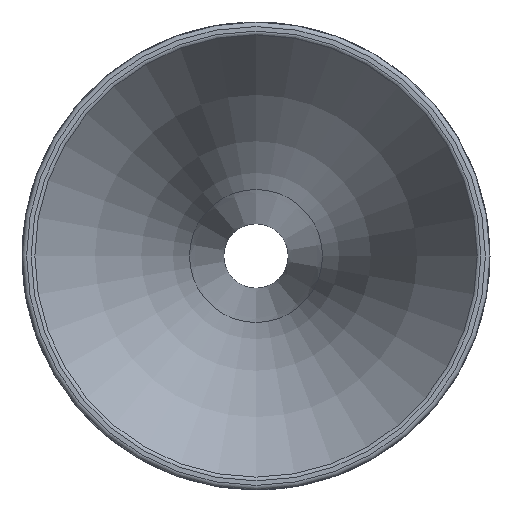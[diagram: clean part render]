
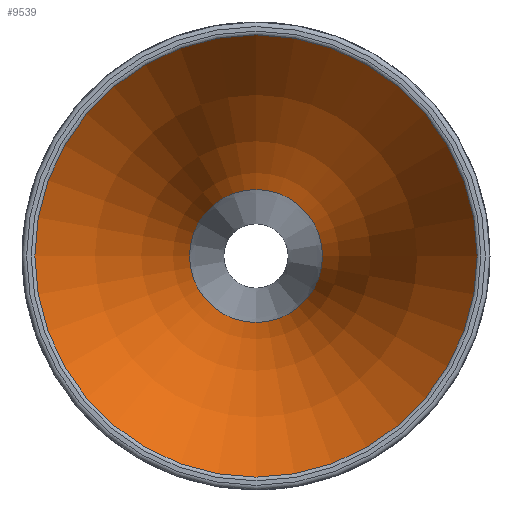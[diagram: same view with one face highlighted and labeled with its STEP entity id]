
A CAD part, front view. The second image highlights one B-rep face of the part: STEP entity #9539.
In plain terms, the highlighted toroidal (fillet/blend) face has major radius 297.261 mm and minor radius 275.091 mm.
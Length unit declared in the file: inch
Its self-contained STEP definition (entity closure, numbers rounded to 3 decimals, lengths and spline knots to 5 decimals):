
#64=TOROIDAL_SURFACE('',#10214,11.7032,10.83034);
#2294=FACE_OUTER_BOUND('',#2867,.T.);
#2867=EDGE_LOOP('',(#8656,#8657,#8658,#8659));
#3037=CIRCLE('',#9983,3.01208);
#3172=CIRCLE('',#10213,0.90625);
#3173=CIRCLE('',#10215,10.83034);
#4359=VERTEX_POINT('',#19522);
#4509=VERTEX_POINT('',#21361);
#5627=EDGE_CURVE('',#4359,#4359,#3037,.T.);
#5903=EDGE_CURVE('',#4509,#4509,#3172,.T.);
#5904=EDGE_CURVE('',#4359,#4509,#3173,.T.);
#8656=ORIENTED_EDGE('',*,*,#5627,.F.);
#8657=ORIENTED_EDGE('',*,*,#5904,.T.);
#8658=ORIENTED_EDGE('',*,*,#5903,.T.);
#8659=ORIENTED_EDGE('',*,*,#5904,.F.);
#9539=ADVANCED_FACE('',(#2294),#64,.T.);
#9983=AXIS2_PLACEMENT_3D('',#19524,#11562,#11563);
#10213=AXIS2_PLACEMENT_3D('',#21363,#12109,#12110);
#10214=AXIS2_PLACEMENT_3D('',#21364,#12111,#12112);
#10215=AXIS2_PLACEMENT_3D('',#21365,#12113,#12114);
#11562=DIRECTION('center_axis',(0.,1.,0.));
#11563=DIRECTION('ref_axis',(0.,0.,-1.));
#12109=DIRECTION('center_axis',(0.,1.,0.));
#12110=DIRECTION('ref_axis',(1.,0.,0.));
#12111=DIRECTION('center_axis',(0.,1.,0.));
#12112=DIRECTION('ref_axis',(0.,0.,1.));
#12113=DIRECTION('center_axis',(-1.,0.,0.));
#12114=DIRECTION('ref_axis',(0.,0.,
-1.));
#19522=CARTESIAN_POINT('',(0.,-11.56854,-3.01208));
#19524=CARTESIAN_POINT('Origin',(0.,-11.56854,0.));
#21361=CARTESIAN_POINT('',(0.,-5.95603,-0.90625));
#21363=CARTESIAN_POINT('Origin',(0.,-5.95603,0.));
#21364=CARTESIAN_POINT('Origin',(0.,-5.10629,0.));
#21365=CARTESIAN_POINT('Origin',(0.,-5.10629,
-11.7032));
